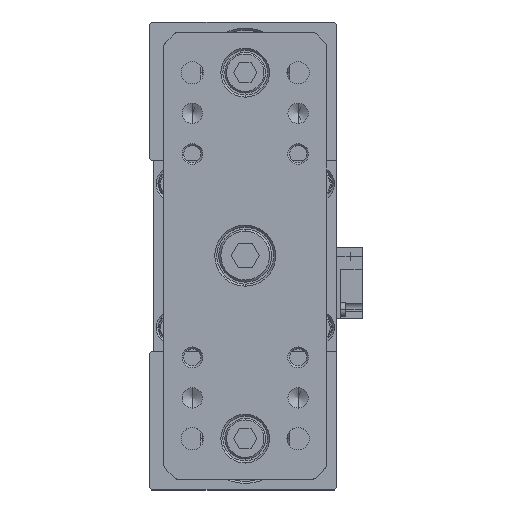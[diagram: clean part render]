
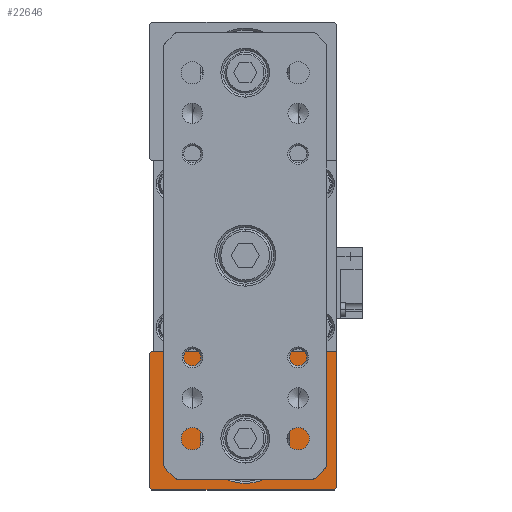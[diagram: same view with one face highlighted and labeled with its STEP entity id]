
A CAD part, top view. The second image highlights one B-rep face of the part: STEP entity #22646.
In plain terms, the highlighted planar face has unit normal (0, 0, 1).
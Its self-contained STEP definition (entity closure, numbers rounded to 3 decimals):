
#192 = ORIENTED_EDGE ( 'NONE', *, *, #22130, .T. ) ;
#704 = EDGE_CURVE ( 'NONE', #16075, #24644, #30946, .T. ) ;
#870 = DIRECTION ( 'NONE',  ( -1., 0., 0. ) ) ;
#999 = CARTESIAN_POINT ( 'NONE',  ( -23., -57.5, 161. ) ) ;
#1928 = CARTESIAN_POINT ( 'NONE',  ( 22.5, -57.5, 161. ) ) ;
#1961 = VECTOR ( 'NONE', #6782, 1000. ) ;
#2075 = ORIENTED_EDGE ( 'NONE', *, *, #7729, .T. ) ;
#2624 = CARTESIAN_POINT ( 'NONE',  ( 11., -45., 161. ) ) ;
#2678 = EDGE_CURVE ( 'NONE', #8445, #11648, #12695, .T. ) ;
#2742 = LINE ( 'NONE', #21591, #1961 ) ;
#3020 = EDGE_CURVE ( 'NONE', #27273, #24644, #14162, .T. ) ;
#3295 = PLANE ( 'NONE',  #11283 ) ;
#3708 = EDGE_CURVE ( 'NONE', #27273, #11648, #26865, .T. ) ;
#3739 = FACE_BOUND ( 'NONE', #6112, .T. ) ;
#4680 = CARTESIAN_POINT ( 'NONE',  ( 22., -57.5, 161. ) ) ;
#5165 = ORIENTED_EDGE ( 'NONE', *, *, #30430, .T. ) ;
#5797 = DIRECTION ( 'NONE',  ( -1., 0., 0. ) ) ;
#5826 = VECTOR ( 'NONE', #870, 1000. ) ;
#5987 = ORIENTED_EDGE ( 'NONE', *, *, #19797, .T. ) ;
#6112 = EDGE_LOOP ( 'NONE', ( #2075, #192 ) ) ;
#6416 = CARTESIAN_POINT ( 'NONE',  ( 22.5, -23.5, 161. ) ) ;
#6652 = CIRCLE ( 'NONE', #23369, 11. ) ;
#6782 = DIRECTION ( 'NONE',  ( 0.707, 0.707, 0. ) ) ;
#6930 = DIRECTION ( 'NONE',  ( -1., 0., 0. ) ) ;
#6975 = ORIENTED_EDGE ( 'NONE', *, *, #704, .T. ) ;
#7103 = CARTESIAN_POINT ( 'NONE',  ( -11., -45., 161. ) ) ;
#7240 = VECTOR ( 'NONE', #30698, 1000. ) ;
#7448 = DIRECTION ( 'NONE',  ( 0., 0., -1. ) ) ;
#7631 = DIRECTION ( 'NONE',  ( 0., 1., 0. ) ) ;
#7678 = VECTOR ( 'NONE', #25630, 1000. ) ;
#7729 = EDGE_CURVE ( 'NONE', #27120, #13052, #6652, .T. ) ;
#7940 = CARTESIAN_POINT ( 'NONE',  ( -23., -57.5, 161. ) ) ;
#8445 = VERTEX_POINT ( 'NONE', #4680 ) ;
#8519 = CARTESIAN_POINT ( 'NONE',  ( 0., -45., 161. ) ) ;
#9286 = CARTESIAN_POINT ( 'NONE',  ( 22.5, -57., 161. ) ) ;
#10485 = EDGE_CURVE ( 'NONE', #28406, #30115, #22987, .T. ) ;
#10644 = CARTESIAN_POINT ( 'NONE',  ( -23.5, -57., 161. ) ) ;
#11006 = DIRECTION ( 'NONE',  ( -1., 0., 0. ) ) ;
#11283 = AXIS2_PLACEMENT_3D ( 'NONE', #25374, #20507, #5797 ) ;
#11648 = VERTEX_POINT ( 'NONE', #7940 ) ;
#12477 = CARTESIAN_POINT ( 'NONE',  ( 22.5, -57.5, 161. ) ) ;
#12695 = LINE ( 'NONE', #1928, #25030 ) ;
#13052 = VERTEX_POINT ( 'NONE', #7103 ) ;
#14162 = LINE ( 'NONE', #18182, #7678 ) ;
#14427 = CARTESIAN_POINT ( 'NONE',  ( -23.5, -24., 161. ) ) ;
#15822 = ORIENTED_EDGE ( 'NONE', *, *, #2678, .F. ) ;
#16035 = FACE_OUTER_BOUND ( 'NONE', #17788, .T. ) ;
#16075 = VERTEX_POINT ( 'NONE', #29094 ) ;
#17788 = EDGE_LOOP ( 'NONE', ( #5987, #6975, #29090, #19310, #15822, #5165, #17914 ) ) ;
#17914 = ORIENTED_EDGE ( 'NONE', *, *, #10485, .T. ) ;
#18182 = CARTESIAN_POINT ( 'NONE',  ( -23.5, -57.5, 161. ) ) ;
#19310 = ORIENTED_EDGE ( 'NONE', *, *, #3708, .T. ) ;
#19797 = EDGE_CURVE ( 'NONE', #30115, #16075, #32065, .T. ) ;
#19802 = DIRECTION ( 'NONE',  ( -0.707, -0.707, 0. ) ) ;
#20211 = CARTESIAN_POINT ( 'NONE',  ( 22.5, -23.5, 161. ) ) ;
#20507 = DIRECTION ( 'NONE',  ( 0., 0., -1. ) ) ;
#21591 = CARTESIAN_POINT ( 'NONE',  ( 22., -57.5, 161. ) ) ;
#22130 = EDGE_CURVE ( 'NONE', #13052, #27120, #26495, .T. ) ;
#22161 = CARTESIAN_POINT ( 'NONE',  ( 0., -45., 161. ) ) ;
#22192 = CARTESIAN_POINT ( 'NONE',  ( -23.5, -24., 161. ) ) ;
#22646 = ADVANCED_FACE ( 'NONE', ( #3739, #16035 ), #3295, .F. ) ;
#22987 = LINE ( 'NONE', #12477, #28017 ) ;
#23369 = AXIS2_PLACEMENT_3D ( 'NONE', #22161, #7448, #24652 ) ;
#24340 = VECTOR ( 'NONE', #19802, 1000. ) ;
#24644 = VERTEX_POINT ( 'NONE', #14427 ) ;
#24652 = DIRECTION ( 'NONE',  ( -1., 0., 0. ) ) ;
#25030 = VECTOR ( 'NONE', #6930, 1000. ) ;
#25374 = CARTESIAN_POINT ( 'NONE',  ( 22.5, -57.5, 161. ) ) ;
#25630 = DIRECTION ( 'NONE',  ( 0., 1., 0. ) ) ;
#25719 = DIRECTION ( 'NONE',  ( 0., 0., -1. ) ) ;
#26495 = CIRCLE ( 'NONE', #27952, 11. ) ;
#26865 = LINE ( 'NONE', #999, #7240 ) ;
#27120 = VERTEX_POINT ( 'NONE', #2624 ) ;
#27273 = VERTEX_POINT ( 'NONE', #10644 ) ;
#27952 = AXIS2_PLACEMENT_3D ( 'NONE', #8519, #25719, #11006 ) ;
#28017 = VECTOR ( 'NONE', #7631, 1000. ) ;
#28406 = VERTEX_POINT ( 'NONE', #9286 ) ;
#29090 = ORIENTED_EDGE ( 'NONE', *, *, #3020, .F. ) ;
#29094 = CARTESIAN_POINT ( 'NONE',  ( -23., -23.5, 161. ) ) ;
#30115 = VERTEX_POINT ( 'NONE', #20211 ) ;
#30430 = EDGE_CURVE ( 'NONE', #8445, #28406, #2742, .T. ) ;
#30698 = DIRECTION ( 'NONE',  ( 0.707, -0.707, 0. ) ) ;
#30946 = LINE ( 'NONE', #22192, #24340 ) ;
#32065 = LINE ( 'NONE', #6416, #5826 ) ;
